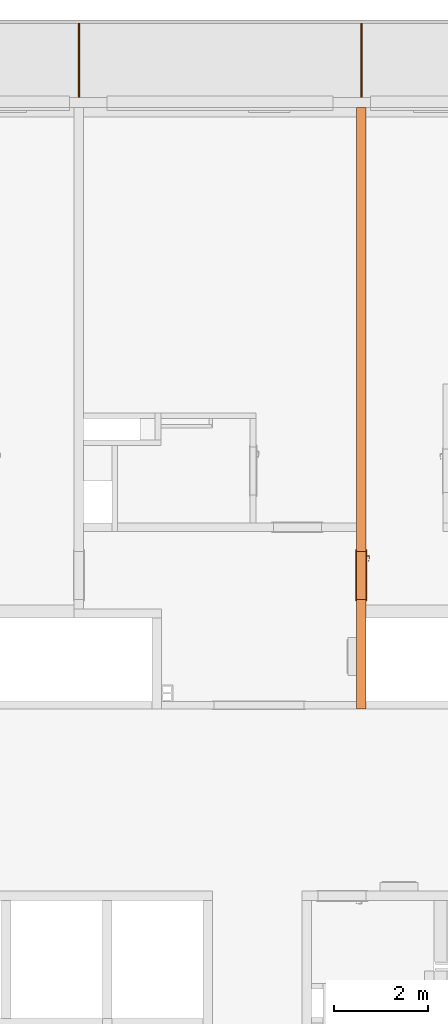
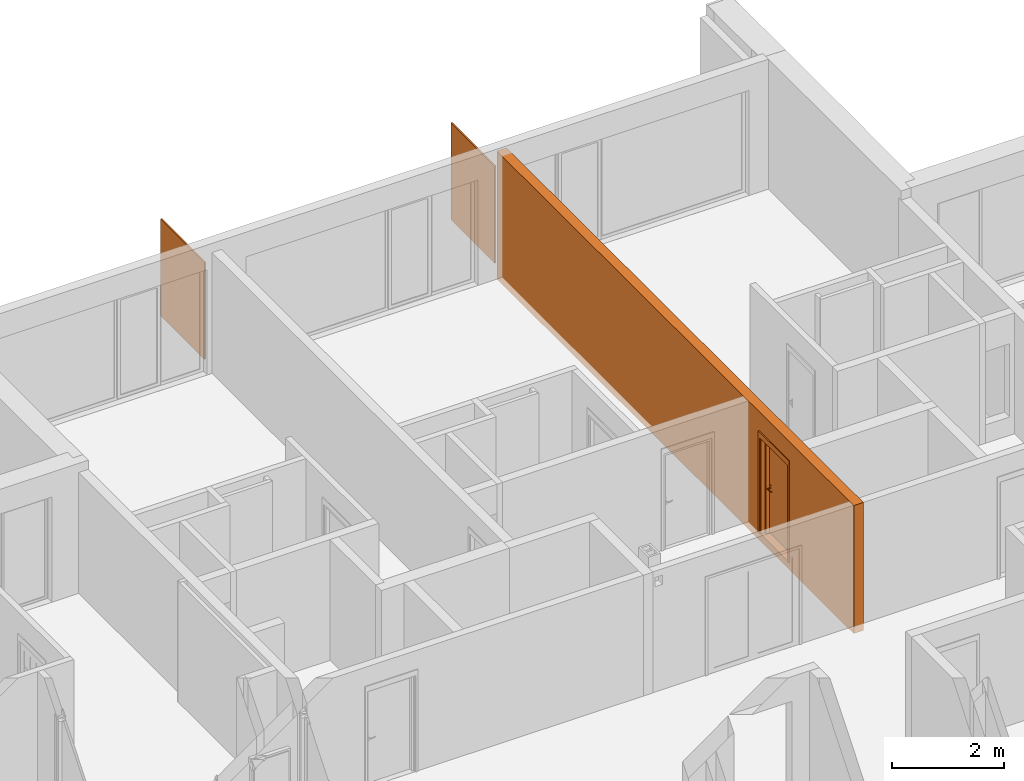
# One storey, part 28 of 66: 4 proxies, 1 opening.
"""IFC2X3 building model written with IfcOpenShell, lengths in millimetres."""

from ifc_helpers import new_model, entity, si_unit, converted_unit, derived_unit, money_unit, direction, frame, origin_with_axes, origin_2d_with_axis, place, context, subcontext, project, spatial, polyline, rectangle, outline, extrude, open_shell, faceted_brep, surface_model, source, transform, mapped, material, type_object, element, fill, save


model = new_model("IFC2X3")

# Units and contexts
model_context = context("Model", 3, precision=0.01, world=origin_with_axes(), true_north=direction((0.34421633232, 0.938890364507)))
body_context = subcontext(model_context, "Body", "Model", "MODEL_VIEW")
ifc_project = project(units=[si_unit("LENGTHUNIT", "METRE", prefix="MILLI"), si_unit("AREAUNIT", "SQUARE_METRE"), si_unit("VOLUMEUNIT", "CUBIC_METRE"), converted_unit("PLANEANGLEUNIT", "DEGREE", entity("IfcPlaneAngleMeasure", 0.0174532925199), si_unit("PLANEANGLEUNIT", "RADIAN"), dimensions=[0, 0, 0, 0, 0, 0, 0]), si_unit("SOLIDANGLEUNIT", "STERADIAN"), money_unit("USD"), converted_unit("TIMEUNIT", "Year", entity("IfcTimeMeasure", 31556926.0), si_unit("TIMEUNIT", "SECOND"), dimensions=[0, 0, 1, 0, 0, 0, 0]), si_unit("MASSUNIT", "GRAM", prefix="KILO"), si_unit("THERMODYNAMICTEMPERATUREUNIT", "DEGREE_CELSIUS"), si_unit("LUMINOUSINTENSITYUNIT", "LUMEN"), si_unit("ENERGYUNIT", "JOULE", prefix="MEGA"), derived_unit("THERMALCONDUCTANCEUNIT", [(si_unit("POWERUNIT", "WATT"), 1), (si_unit("LENGTHUNIT", "METRE"), -1), (si_unit("THERMODYNAMICTEMPERATUREUNIT", "KELVIN"), -1)]), derived_unit("SPECIFICHEATCAPACITYUNIT", [(si_unit("ENERGYUNIT", "JOULE"), 1), (si_unit("MASSUNIT", "GRAM", prefix="KILO"), -1), (si_unit("THERMODYNAMICTEMPERATUREUNIT", "KELVIN"), -1)]), derived_unit("MASSDENSITYUNIT", [(si_unit("MASSUNIT", "GRAM", prefix="KILO"), 1), (si_unit("VOLUMEUNIT", "CUBIC_METRE"), -1)])], contexts=[model_context])

# Site, building, storey
site_placement = place(None, origin_with_axes())
site = spatial("IfcSite", under=ifc_project, at=site_placement, Name="USTRONIE MORSKIE", CompositionType="ELEMENT")
building_placement = place(site_placement, origin_with_axes())
building = spatial("IfcBuilding", under=site, at=building_placement, Name="Budynek", CompositionType="ELEMENT")
storey_placement = place(building_placement, frame((0.0, 0.0, 10000.0), z_axis=(0.0, 0.0, 1.0), x_axis=(1.0, 0.0, 0.0)))
storey = spatial("IfcBuildingStorey", under=building, at=storey_placement, Name="PIĘTRO 3", CompositionType="ELEMENT", Elevation=10000.0)

# Proxies, opening
ifc_material_1 = material(Name="Beton konstrukcyjny B25")
building_element_proxy_type_1 = type_object("IfcBuildingElementProxyType", Name="Beton konstrukcyjny B25 200", PredefinedType="NOTDEFINED")
proxy_1_placement = place(storey_placement, frame((390817.920919, 749451.199036, -160.0), z_axis=(0.0, 0.0, 1.0), x_axis=(0.0, -1.0, 0.0)))
proxy_1 = element("IfcBuildingElementProxy", 1, at=proxy_1_placement, inside=storey, type_object=building_element_proxy_type_1, material=ifc_material_1, Name="SW-01", context=body_context, shape_type="Brep", body=[
    faceted_brep([(-100.0, -100.0, 2800.0), (12680.0, -100.0, 2800.0), (12680.0, 100.0, 2800.0), (-100.0, 100.0, 2800.0), (-100.0, -100.0, 0.0), (12680.0, -100.0, 0.0), (12680.0, 100.0, 0.0), (-100.0, 100.0, 0.0)], [[[0, 1, 2, 3]], [[4, 5, 1, 0]], [[6, 2, 1, 5]], [[3, 2, 6, 7]], [[7, 4, 0, 3]], [[7, 6, 5, 4]]]),
])
opening_placement = place(proxy_1_placement, frame((9840.0, 0.0, 160.0), z_axis=(0.0, 0.0, 1.0), x_axis=(1.0, 0.0, 0.0)))
opening = element("IfcOpeningElement", 2, at=opening_placement, cuts=proxy_1, Name="Dw.1", context=body_context, shape_type="SweptSolid", body=[
    extrude(rectangle(XDim=1020.0, YDim=2120.0, at=origin_2d_with_axis()), frame((0.0, -200.0, 1060.0), z_axis=(0.0, 1.0, 0.0), x_axis=(1.0, 0.0, 0.0)), (0.0, 0.0, 1.0), 600.0),
    extrude(rectangle(XDim=1094.0, YDim=2227.0, at=origin_2d_with_axis()), frame((0.0, -100.0, 1113.5), z_axis=(0.0, 1.0, 0.0), x_axis=(1.0, 0.0, 0.0)), (0.0, 0.0, -1.0), 200.0),
    extrude(rectangle(XDim=1094.0, YDim=2227.0, at=origin_2d_with_axis()), frame((0.0, 100.0, 1113.5), z_axis=(0.0, -1.0, 0.0), x_axis=(1.0, 0.0, 0.0)), (0.0, 0.0, -1.0), 200.0),
])
building_element_proxy_type_2 = type_object("IfcBuildingElementProxyType", Name="Drzwi 23", PredefinedType="NOTDEFINED")
shared_shape = source(origin_with_axes(), body_context, "Body", "SurfaceModel", [
    faceted_brep([(-510.0, -115.0, 0.0), (-485.0, -115.0, 0.0), (-485.0, -200.0, 0.0), (-510.0, -200.0, 0.0), (-510.0, -115.0, 2120.0), (-485.0, -115.0, 2095.0), (-485.0, -200.0, 2095.0), (-510.0, -200.0, 2120.0)], [[[0, 1, 2, 3]], [[0, 4, 5, 1]], [[1, 5, 6, 2]], [[3, 2, 6, 7]], [[4, 0, 3, 7]], [[5, 4, 7, 6]]]),
    faceted_brep([(510.0, -115.0, 2120.0), (485.0, -115.0, 2095.0), (485.0, -200.0, 2095.0), (510.0, -200.0, 2120.0), (510.0, -115.0, 0.0), (485.0, -115.0, 0.0), (485.0, -200.0, 0.0), (510.0, -200.0, 0.0)], [[[0, 1, 2, 3]], [[0, 4, 5, 1]], [[1, 5, 6, 2]], [[3, 2, 6, 7]], [[4, 0, 3, 7]], [[5, 4, 7, 6]]]),
    faceted_brep([(-485.0, -115.0, 2095.0), (485.0, -115.0, 2095.0), (485.0, -200.0, 2095.0), (-485.0, -200.0, 2095.0), (-510.0, -115.0, 2120.0), (510.0, -115.0, 2120.0), (510.0, -200.0, 2120.0), (-510.0, -200.0, 2120.0)], [[[0, 1, 2, 3]], [[0, 4, 5, 1]], [[1, 5, 6, 2]], [[3, 2, 6, 7]], [[4, 0, 3, 7]], [[5, 4, 7, 6]]]),
    faceted_brep([(-547.0, -219.0, 0.0), (-547.0, -200.0, 0.0), (-497.0, -200.0, 0.0), (-497.0, -219.0, 0.0), (-547.0, -219.0, 2227.0), (-547.0, -200.0, 2227.0), (-497.0, -200.0, 2107.0), (-497.0, -219.0, 2107.0)], [[[0, 1, 2, 3]], [[4, 5, 1, 0]], [[1, 5, 6, 2]], [[3, 2, 6, 7]], [[0, 3, 7, 4]], [[7, 6, 5, 4]]]),
    faceted_brep([(547.0, -219.0, 2227.0), (547.0, -200.0, 2227.0), (497.0, -200.0, 2107.0), (497.0, -219.0, 2107.0), (547.0, -219.0, 0.0), (547.0, -200.0, 0.0), (497.0, -200.0, 0.0), (497.0, -219.0, 0.0)], [[[0, 1, 2, 3]], [[4, 5, 1, 0]], [[1, 5, 6, 2]], [[3, 2, 6, 7]], [[0, 3, 7, 4]], [[7, 6, 5, 4]]]),
    faceted_brep([(-547.0, -219.0, 2227.0), (-547.0, -200.0, 2227.0), (-497.0, -200.0, 2107.0), (-497.0, -219.0, 2107.0), (547.0, -219.0, 2227.0), (547.0, -200.0, 2227.0), (497.0, -200.0, 2107.0), (497.0, -219.0, 2107.0)], [[[0, 1, 2, 3]], [[4, 5, 1, 0]], [[1, 5, 6, 2]], [[3, 2, 6, 7]], [[0, 3, 7, 4]], [[7, 6, 5, 4]]]),
    faceted_brep([(-547.0, 19.0, 0.0), (-497.0, 19.0, 0.0), (-497.0, 0.0, 0.0), (-547.0, 0.0, 0.0), (-547.0, 19.0, 2227.0), (-497.0, 19.0, 2107.0), (-497.0, 0.0, 2107.0), (-547.0, 0.0, 2227.0)], [[[0, 1, 2, 3]], [[0, 4, 5, 1]], [[1, 5, 6, 2]], [[3, 2, 6, 7]], [[4, 0, 3, 7]], [[5, 4, 7, 6]]]),
    faceted_brep([(547.0, 19.0, 2227.0), (497.0, 19.0, 2107.0), (497.0, 0.0, 2107.0), (547.0, 0.0, 2227.0), (547.0, 19.0, 0.0), (497.0, 19.0, 0.0), (497.0, 0.0, 0.0), (547.0, 0.0, 0.0)], [[[0, 1, 2, 3]], [[0, 4, 5, 1]], [[1, 5, 6, 2]], [[3, 2, 6, 7]], [[4, 0, 3, 7]], [[5, 4, 7, 6]]]),
    faceted_brep([(-547.0, 19.0, 2227.0), (-497.0, 19.0, 2107.0), (-497.0, 0.0, 2107.0), (-547.0, 0.0, 2227.0), (547.0, 19.0, 2227.0), (497.0, 19.0, 2107.0), (497.0, 0.0, 2107.0), (547.0, 0.0, 2227.0)], [[[0, 1, 2, 3]], [[0, 4, 5, 1]], [[1, 5, 6, 2]], [[3, 2, 6, 7]], [[4, 0, 3, 7]], [[5, 4, 7, 6]]]),
    faceted_brep([(-450.0, -40.0, 0.0), (-450.0, -40.0, 2050.0), (-450.0, -115.0, 2050.0), (-450.0, -115.0, 0.0), (-462.0, -40.0, 2050.0), (-462.0, -40.0, 0.0), (-462.0, 0.0, 2050.0), (-510.0, 0.0, 2050.0), (-510.0, -115.0, 2050.0), (-510.0, -115.0, 0.0), (-510.0, 0.0, 0.0), (-462.0, 0.0, 0.0)], [[[0, 1, 2, 3]], [[4, 1, 0, 5]], [[4, 6, 7, 8, 2, 1]], [[3, 2, 8, 9]], [[5, 0, 3, 9, 10, 11]], [[6, 4, 5, 11]], [[6, 11, 10, 7]], [[10, 9, 8, 7]]]),
    faceted_brep([(462.0, -40.0, 2050.0), (450.0, -40.0, 2050.0), (450.0, -115.0, 2050.0), (510.0, -115.0, 2050.0), (510.0, 0.0, 2050.0), (462.0, 0.0, 2050.0), (462.0, -40.0, 0.0), (450.0, -40.0, 0.0), (450.0, -115.0, 0.0), (510.0, -115.0, 0.0), (510.0, 0.0, 0.0), (462.0, 0.0, 0.0)], [[[0, 1, 2, 3, 4, 5]], [[1, 0, 6, 7]], [[1, 7, 8, 2]], [[3, 2, 8, 9]], [[4, 3, 9, 10]], [[11, 5, 4, 10]], [[0, 5, 11, 6]], [[6, 11, 10, 9, 8, 7]]]),
    faceted_brep([(-462.0, 0.0, 2062.0), (-462.0, 0.0, 2050.0), (-510.0, 0.0, 2050.0), (-510.0, 0.0, 2120.0), (510.0, 0.0, 2120.0), (510.0, 0.0, 2050.0), (462.0, 0.0, 2050.0), (462.0, 0.0, 2062.0), (-462.0, -40.0, 2062.0), (-462.0, -40.0, 2050.0), (-450.0, -40.0, 2050.0), (-450.0, -115.0, 2050.0), (-510.0, -115.0, 2050.0), (-510.0, -115.0, 2120.0), (510.0, -115.0, 2120.0), (510.0, -115.0, 2050.0), (462.0, -40.0, 2050.0), (450.0, -115.0, 2050.0), (450.0, -40.0, 2050.0), (462.0, -40.0, 2062.0)], [[[0, 1, 2, 3, 4, 5, 6, 7]], [[1, 0, 8, 9]], [[9, 10, 11, 12, 2, 1]], [[2, 12, 13, 3]], [[3, 13, 14, 4]], [[4, 14, 15, 5]], [[16, 6, 5, 15, 17, 18]], [[7, 6, 16, 19]], [[0, 7, 19, 8]], [[16, 18, 10, 9, 8, 19]], [[10, 18, 17, 11]], [[17, 15, 14, 13, 12, 11]]]),
    faceted_brep([(-440.5, -40.0, 1060.0), (-440.5, -43.0, 1060.0), (-383.5, -43.0, 1060.0), (-383.5, -40.0, 1060.0), (-440.5, -40.0, 870.0), (-440.5, -43.0, 870.0), (-383.5, -43.0, 870.0), (-383.5, -40.0, 870.0)], [[[0, 1, 2, 3]], [[4, 5, 1, 0]], [[1, 5, 6, 2]], [[3, 2, 6, 7]], [[0, 3, 7, 4]], [[7, 6, 5, 4]]]),
    faceted_brep([(-412.0, -104.0, 990.0), (-412.0, -111.0, 990.0), (-417.0, -111.0, 991.339745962), (-417.0, -104.0, 991.339745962), (-387.0, -104.0, 990.0), (-387.0, -111.0, 990.0), (-387.0, -111.0, 1010.0), (-412.0, -111.0, 1010.0), (-417.0, -111.0, 1008.66025404), (-420.660254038, -111.0, 1005.0), (-422.0, -111.0, 1000.0), (-420.660254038, -111.0, 995.0), (-420.660254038, -104.0, 995.0), (-422.0, -104.0, 1000.0), (-420.660254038, -104.0, 1005.0), (-417.0, -104.0, 1008.66025404), (-412.0, -104.0, 1010.0), (-387.0, -104.0, 1010.0)], [[[0, 1, 2, 3]], [[4, 5, 1, 0]], [[1, 5, 6, 7, 8, 9, 10, 11, 2]], [[3, 2, 11, 12]], [[0, 3, 12, 13, 14, 15, 16, 17, 4]], [[17, 6, 5, 4]], [[16, 7, 6, 17]], [[15, 8, 7, 16]], [[14, 9, 8, 15]], [[13, 10, 9, 14]], [[12, 11, 10, 13]]]),
    surface_model("IfcShellBasedSurfaceModel", [(-387.0, -104.0, 1010.0), (-373.596090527, -111.0, 1009.60730092), (-373.901717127, -104.0, 1009.60730092), (-387.0, -111.0, 1010.0), (-346.890283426, -108.663544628, 1008.82190275), (-373.901717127, -104.0, 990.392699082), (-387.0, -104.0, 990.0), (-387.0, -111.0, 990.0), (-373.596090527, -111.0, 990.392699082), (-346.890283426, -108.663544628, 991.178097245), (-347.804837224, -101.716818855, 1008.82190275), (-347.804837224, -101.716818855, 991.178097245), (-320.489735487, -104.008415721, 991.963495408), (-320.489735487, -104.008415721, 1008.03650459), (-322.006256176, -97.1678329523, 1008.03650459), (-322.006256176, -97.1678329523, 991.963495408), (-294.59537082, -97.0700416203, 992.748893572), (-294.59537082, -97.0700416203, 1007.25110643), (-296.702316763, -90.3876628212, 1007.25110643), (-296.702316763, -90.3876628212, 992.748893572), (-286.538795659, -94.1376880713, 993.0), (-286.538795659, -94.1376880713, 1007.0), (-288.829442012, -87.5221707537, 1007.0), (-288.829442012, -87.5221707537, 993.0)], [open_shell([[[0, 1, 2]], [[0, 3, 1]], [[2, 1, 4]], [[0, 2, 5, 6]], [[3, 7, 8, 1]], [[1, 8, 9, 4]], [[2, 4, 10]], [[2, 10, 11, 5]], [[5, 7, 6]], [[5, 8, 7]], [[11, 9, 8]], [[4, 9, 12, 13]], [[10, 4, 13]], [[10, 14, 15, 11]], [[11, 8, 5]], [[15, 9, 11]], [[15, 12, 9]], [[13, 12, 16, 17]], [[10, 13, 14]], [[14, 18, 19, 15]], [[19, 12, 15]], [[19, 16, 12]], [[17, 16, 20, 21]], [[14, 13, 17]], [[14, 17, 18]], [[18, 22, 23, 19]], [[23, 16, 19]], [[23, 20, 16]], [[22, 21, 20, 23]], [[18, 17, 21]], [[18, 21, 22]]])]),
    faceted_brep([(-401.607695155, -53.0, 994.0), (-400.741669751, -43.0, 993.5), (-399.0, -43.0, 1000.0), (-400.0, -53.0, 1000.0), (-406.0, -53.0, 989.607695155), (-405.5, -43.0, 988.741669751), (-412.0, -43.0, 987.0), (-418.5, -43.0, 988.741669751), (-423.258330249, -43.0, 993.5), (-425.0, -43.0, 1000.0), (-423.258330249, -43.0, 1006.5), (-418.5, -43.0, 1011.25833025), (-412.0, -43.0, 1013.0), (-405.5, -43.0, 1011.25833025), (-400.741669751, -43.0, 1006.5), (-401.607695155, -53.0, 1006.0), (-406.0, -53.0, 1010.39230485), (-412.0, -53.0, 1012.0), (-418.0, -53.0, 1010.39230485), (-422.392304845, -53.0, 1006.0), (-424.0, -53.0, 1000.0), (-422.392304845, -53.0, 994.0), (-418.0, -53.0, 989.607695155), (-412.0, -53.0, 988.0)], [[[0, 1, 2, 3]], [[4, 5, 1, 0]], [[2, 1, 5, 6, 7, 8, 9, 10, 11, 12, 13, 14]], [[3, 2, 14, 15]], [[3, 15, 16, 17, 18, 19, 20, 21, 22, 23, 4, 0]], [[23, 6, 5, 4]], [[22, 7, 6, 23]], [[21, 8, 7, 22]], [[20, 9, 8, 21]], [[19, 10, 9, 20]], [[18, 11, 10, 19]], [[17, 12, 11, 18]], [[16, 13, 12, 17]], [[15, 14, 13, 16]]]),
    faceted_brep([(-394.679491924, -47.0, 895.0), (-392.947441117, -43.0, 894.0), (-390.0, -43.0, 905.0), (-392.0, -47.0, 905.0), (-402.0, -47.0, 887.679491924), (-401.0, -43.0, 885.947441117), (-412.0, -43.0, 883.0), (-423.0, -43.0, 885.947441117), (-431.052558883, -43.0, 894.0), (-434.0, -43.0, 905.0), (-431.052558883, -43.0, 916.0), (-423.0, -43.0, 924.052558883), (-412.0, -43.0, 927.0), (-401.0, -43.0, 924.052558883), (-392.947441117, -43.0, 916.0), (-394.679491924, -47.0, 915.0), (-402.0, -47.0, 922.320508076), (-412.0, -47.0, 925.0), (-422.0, -47.0, 922.320508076), (-429.320508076, -47.0, 915.0), (-432.0, -47.0, 905.0), (-429.320508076, -47.0, 895.0), (-422.0, -47.0, 887.679491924), (-412.0, -47.0, 885.0)], [[[0, 1, 2, 3]], [[4, 5, 1, 0]], [[2, 1, 5, 6, 7, 8, 9, 10, 11, 12, 13, 14]], [[3, 2, 14, 15]], [[3, 15, 16, 17, 18, 19, 20, 21, 22, 23, 4, 0]], [[23, 6, 5, 4]], [[22, 7, 6, 23]], [[21, 8, 7, 22]], [[20, 9, 8, 21]], [[19, 10, 9, 20]], [[18, 11, 10, 19]], [[17, 12, 11, 18]], [[16, 13, 12, 17]], [[15, 14, 13, 16]]]),
    faceted_brep([(-407.050252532, -49.0, 909.050252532), (-406.343145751, -47.0, 908.343145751), (-404.0, -47.0, 914.0), (-405.0, -49.0, 914.0), (-412.0, -49.0, 907.0), (-412.0, -47.0, 906.0), (-417.656854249, -47.0, 908.343145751), (-420.0, -47.0, 914.0), (-417.656854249, -47.0, 919.656854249), (-412.0, -47.0, 922.0), (-406.343145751, -47.0, 919.656854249), (-407.050252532, -49.0, 918.949747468), (-412.0, -49.0, 921.0), (-416.949747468, -49.0, 918.949747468), (-419.0, -49.0, 914.0), (-416.949747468, -49.0, 909.050252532)], [[[0, 1, 2, 3]], [[4, 5, 1, 0]], [[2, 1, 5, 6, 7, 8, 9, 10]], [[3, 2, 10, 11]], [[3, 11, 12, 13, 14, 15, 4, 0]], [[15, 6, 5, 4]], [[14, 7, 6, 15]], [[13, 8, 7, 14]], [[12, 9, 8, 13]], [[11, 10, 9, 12]]]),
    faceted_brep([(-412.0, -53.0, 1010.0), (-412.0, -104.0, 1010.0), (-407.0, -104.0, 1008.66025404), (-407.0, -53.0, 1008.66025404), (-417.0, -53.0, 1008.66025404), (-417.0, -104.0, 1008.66025404), (-420.660254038, -104.0, 1005.0), (-422.0, -104.0, 1000.0), (-420.660254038, -104.0, 995.0), (-417.0, -104.0, 991.339745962), (-412.0, -104.0, 990.0), (-407.0, -104.0, 991.339745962), (-403.339745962, -104.0, 995.0), (-402.0, -104.0, 1000.0), (-403.339745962, -104.0, 1005.0), (-403.339745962, -53.0, 1005.0), (-402.0, -53.0, 1000.0), (-403.339745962, -53.0, 995.0), (-407.0, -53.0, 991.339745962), (-412.0, -53.0, 990.0), (-417.0, -53.0, 991.339745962), (-420.660254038, -53.0, 995.0), (-422.0, -53.0, 1000.0), (-420.660254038, -53.0, 1005.0)], [[[0, 1, 2, 3]], [[4, 5, 1, 0]], [[1, 5, 6, 7, 8, 9, 10, 11, 12, 13, 14, 2]], [[3, 2, 14, 15]], [[0, 3, 15, 16, 17, 18, 19, 20, 21, 22, 23, 4]], [[23, 6, 5, 4]], [[22, 7, 6, 23]], [[21, 8, 7, 22]], [[20, 9, 8, 21]], [[19, 10, 9, 20]], [[18, 11, 10, 19]], [[17, 12, 11, 18]], [[16, 13, 12, 17]], [[15, 14, 13, 16]]]),
    faceted_brep([(-440.5, 0.0, 1060.0), (-383.5, 0.0, 1060.0), (-383.5, 3.0, 1060.0), (-440.5, 3.0, 1060.0), (-440.5, 0.0, 870.0), (-383.5, 0.0, 870.0), (-383.5, 3.0, 870.0), (-440.5, 3.0, 870.0)], [[[0, 1, 2, 3]], [[0, 4, 5, 1]], [[1, 5, 6, 2]], [[3, 2, 6, 7]], [[4, 0, 3, 7]], [[5, 4, 7, 6]]]),
    faceted_brep([(-412.0, 64.0, 990.0), (-417.0, 64.0, 991.339745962), (-417.0, 71.0, 991.339745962), (-412.0, 71.0, 990.0), (-387.0, 64.0, 990.0), (-387.0, 64.0, 1010.0), (-412.0, 64.0, 1010.0), (-417.0, 64.0, 1008.66025404), (-420.660254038, 64.0, 1005.0), (-422.0, 64.0, 1000.0), (-420.660254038, 64.0, 995.0), (-420.660254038, 71.0, 995.0), (-422.0, 71.0, 1000.0), (-420.660254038, 71.0, 1005.0), (-417.0, 71.0, 1008.66025404), (-412.0, 71.0, 1010.0), (-387.0, 71.0, 1010.0), (-387.0, 71.0, 990.0)], [[[0, 1, 2, 3]], [[0, 4, 5, 6, 7, 8, 9, 10, 1]], [[1, 10, 11, 2]], [[3, 2, 11, 12, 13, 14, 15, 16, 17]], [[4, 0, 3, 17]], [[5, 4, 17, 16]], [[6, 5, 16, 15]], [[7, 6, 15, 14]], [[8, 7, 14, 13]], [[9, 8, 13, 12]], [[10, 9, 12, 11]]]),
    surface_model("IfcShellBasedSurfaceModel", [(-387.0, 64.0, 1010.0), (-373.901717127, 64.0, 1009.60730092), (-373.596090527, 71.0, 1009.60730092), (-387.0, 64.0, 990.0), (-373.901717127, 64.0, 990.392699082), (-346.890283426, 68.6635446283, 1008.82190275), (-387.0, 71.0, 1010.0), (-387.0, 71.0, 990.0), (-347.804837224, 61.716818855, 991.178097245), (-347.804837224, 61.716818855, 1008.82190275), (-346.890283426, 68.6635446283, 991.178097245), (-373.596090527, 71.0, 990.392699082), (-322.006256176, 57.1678329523, 991.963495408), (-322.006256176, 57.1678329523, 1008.03650459), (-320.489735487, 64.0084157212, 1008.03650459), (-320.489735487, 64.0084157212, 991.963495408), (-296.702316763, 50.3876628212, 992.748893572), (-296.702316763, 50.3876628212, 1007.25110643), (-294.59537082, 57.0700416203, 1007.25110643), (-294.59537082, 57.0700416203, 992.748893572), (-288.829442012, 47.5221707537, 993.0), (-288.829442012, 47.5221707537, 1007.0), (-286.538795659, 54.1376880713, 1007.0), (-286.538795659, 54.1376880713, 993.0)], [open_shell([[[0, 1, 2]], [[0, 3, 4, 1]], [[1, 5, 2]], [[0, 2, 6]], [[4, 3, 7]], [[1, 4, 8, 9]], [[1, 9, 5]], [[2, 5, 10, 11]], [[6, 2, 11, 7]], [[4, 7, 11]], [[8, 4, 11]], [[9, 8, 12, 13]], [[9, 14, 5]], [[5, 14, 15, 10]], [[8, 11, 10]], [[12, 8, 10]], [[13, 12, 16, 17]], [[9, 13, 14]], [[14, 18, 19, 15]], [[12, 10, 15]], [[16, 12, 15]], [[17, 16, 20, 21]], [[13, 17, 18]], [[13, 18, 14]], [[18, 22, 23, 19]], [[16, 15, 19]], [[20, 16, 19]], [[21, 20, 23, 22]], [[17, 21, 22]], [[17, 22, 18]], [[20, 19, 23]]])]),
    faceted_brep([(-401.607695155, 13.0, 994.0), (-400.0, 13.0, 1000.0), (-399.0, 3.0, 1000.0), (-400.741669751, 3.0, 993.5), (-406.0, 13.0, 989.607695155), (-412.0, 13.0, 988.0), (-418.0, 13.0, 989.607695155), (-422.392304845, 13.0, 994.0), (-424.0, 13.0, 1000.0), (-422.392304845, 13.0, 1006.0), (-418.0, 13.0, 1010.39230485), (-412.0, 13.0, 1012.0), (-406.0, 13.0, 1010.39230485), (-401.607695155, 13.0, 1006.0), (-400.741669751, 3.0, 1006.5), (-405.5, 3.0, 1011.25833025), (-412.0, 3.0, 1013.0), (-418.5, 3.0, 1011.25833025), (-423.258330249, 3.0, 1006.5), (-425.0, 3.0, 1000.0), (-423.258330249, 3.0, 993.5), (-418.5, 3.0, 988.741669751), (-412.0, 3.0, 987.0), (-405.5, 3.0, 988.741669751)], [[[0, 1, 2, 3]], [[1, 0, 4, 5, 6, 7, 8, 9, 10, 11, 12, 13]], [[1, 13, 14, 2]], [[2, 14, 15, 16, 17, 18, 19, 20, 21, 22, 23, 3]], [[4, 0, 3, 23]], [[5, 4, 23, 22]], [[6, 5, 22, 21]], [[7, 6, 21, 20]], [[8, 7, 20, 19]], [[9, 8, 19, 18]], [[10, 9, 18, 17]], [[11, 10, 17, 16]], [[12, 11, 16, 15]], [[13, 12, 15, 14]]]),
    faceted_brep([(-394.679491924, 7.0, 895.0), (-392.0, 7.0, 905.0), (-390.0, 3.0, 905.0), (-392.947441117, 3.0, 894.0), (-402.0, 7.0, 887.679491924), (-412.0, 7.0, 885.0), (-422.0, 7.0, 887.679491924), (-429.320508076, 7.0, 895.0), (-432.0, 7.0, 905.0), (-429.320508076, 7.0, 915.0), (-422.0, 7.0, 922.320508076), (-412.0, 7.0, 925.0), (-402.0, 7.0, 922.320508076), (-394.679491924, 7.0, 915.0), (-392.947441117, 3.0, 916.0), (-401.0, 3.0, 924.052558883), (-412.0, 3.0, 927.0), (-423.0, 3.0, 924.052558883), (-431.052558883, 3.0, 916.0), (-434.0, 3.0, 905.0), (-431.052558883, 3.0, 894.0), (-423.0, 3.0, 885.947441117), (-412.0, 3.0, 883.0), (-401.0, 3.0, 885.947441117)], [[[0, 1, 2, 3]], [[1, 0, 4, 5, 6, 7, 8, 9, 10, 11, 12, 13]], [[1, 13, 14, 2]], [[2, 14, 15, 16, 17, 18, 19, 20, 21, 22, 23, 3]], [[4, 0, 3, 23]], [[5, 4, 23, 22]], [[6, 5, 22, 21]], [[7, 6, 21, 20]], [[8, 7, 20, 19]], [[9, 8, 19, 18]], [[10, 9, 18, 17]], [[11, 10, 17, 16]], [[12, 11, 16, 15]], [[13, 12, 15, 14]]]),
    faceted_brep([(-407.050252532, 9.0, 909.050252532), (-405.0, 9.0, 914.0), (-404.0, 7.0, 914.0), (-406.343145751, 7.0, 908.343145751), (-412.0, 9.0, 907.0), (-416.949747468, 9.0, 909.050252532), (-419.0, 9.0, 914.0), (-416.949747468, 9.0, 918.949747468), (-412.0, 9.0, 921.0), (-407.050252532, 9.0, 918.949747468), (-406.343145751, 7.0, 919.656854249), (-412.0, 7.0, 922.0), (-417.656854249, 7.0, 919.656854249), (-420.0, 7.0, 914.0), (-417.656854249, 7.0, 908.343145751), (-412.0, 7.0, 906.0)], [[[0, 1, 2, 3]], [[1, 0, 4, 5, 6, 7, 8, 9]], [[1, 9, 10, 2]], [[2, 10, 11, 12, 13, 14, 15, 3]], [[4, 0, 3, 15]], [[5, 4, 15, 14]], [[6, 5, 14, 13]], [[7, 6, 13, 12]], [[8, 7, 12, 11]], [[9, 8, 11, 10]]]),
    faceted_brep([(-412.0, 13.0, 1010.0), (-407.0, 13.0, 1008.66025404), (-407.0, 64.0, 1008.66025404), (-412.0, 64.0, 1010.0), (-417.0, 13.0, 1008.66025404), (-420.660254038, 13.0, 1005.0), (-422.0, 13.0, 1000.0), (-420.660254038, 13.0, 995.0), (-417.0, 13.0, 991.339745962), (-412.0, 13.0, 990.0), (-407.0, 13.0, 991.339745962), (-403.339745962, 13.0, 995.0), (-402.0, 13.0, 1000.0), (-403.339745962, 13.0, 1005.0), (-403.339745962, 64.0, 1005.0), (-402.0, 64.0, 1000.0), (-403.339745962, 64.0, 995.0), (-407.0, 64.0, 991.339745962), (-412.0, 64.0, 990.0), (-417.0, 64.0, 991.339745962), (-420.660254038, 64.0, 995.0), (-422.0, 64.0, 1000.0), (-420.660254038, 64.0, 1005.0), (-417.0, 64.0, 1008.66025404)], [[[0, 1, 2, 3]], [[0, 4, 5, 6, 7, 8, 9, 10, 11, 12, 13, 1]], [[1, 13, 14, 2]], [[3, 2, 14, 15, 16, 17, 18, 19, 20, 21, 22, 23]], [[4, 0, 3, 23]], [[5, 4, 23, 22]], [[6, 5, 22, 21]], [[7, 6, 21, 20]], [[8, 7, 20, 19]], [[9, 8, 19, 18]], [[10, 9, 18, 17]], [[11, 10, 17, 16]], [[12, 11, 16, 15]], [[13, 12, 15, 14]]]),
    faceted_brep([(462.0, 0.0, 0.0), (462.0, -40.0, 0.0), (-462.0, -40.0, 0.0), (-462.0, 0.0, 0.0), (462.0, 0.0, 2062.0), (462.0, -40.0, 2062.0), (-462.0, -40.0, 2062.0), (-462.0, 0.0, 2062.0)], [[[0, 1, 2, 3]], [[4, 5, 1, 0]], [[1, 5, 6, 2]], [[3, 2, 6, 7]], [[0, 3, 7, 4]], [[7, 6, 5, 4]]]),
])
proxy_2_placement = place(opening_placement, frame((-450.0, 0.0, 0.0), z_axis=(0.0, 0.0, 1.0), x_axis=(1.0, 0.0, 0.0)))
proxy_2 = element("IfcBuildingElementProxy", 3, at=proxy_2_placement, inside=storey, type_object=building_element_proxy_type_2, Name="Dw.1", context=body_context, shape_type="MappedRepresentation", body=[
    mapped(shared_shape, transform((450.0, 100.0, 0.0))),
])
fill(opening, proxy_2)

# Proxies
ifc_material_2 = material(Name="Woda")
building_element_proxy_type_3 = type_object("IfcBuildingElementProxyType", Name="Woda 30", PredefinedType="NOTDEFINED")
for number, where, z_axis, x_axis, name in (
    (4, (390817.920919, 749771.199036, 20.0), (0.0, 0.0, 1.0), (0.0, 1.0, 0.0), "Œciana-007"),
    (5, (384817.920919, 749771.199036, 20.0), (0.0, 0.0, 1.0), (0.0, 1.0, 0.0), "Œciana-007"),
):
    element("IfcBuildingElementProxy", number, at=place(storey_placement, frame(where, z_axis=z_axis, x_axis=x_axis)), inside=storey, type_object=building_element_proxy_type_3, material=ifc_material_2, Name=name, context=body_context, shape_type="SweptSolid", body=[
        extrude(outline(polyline([(0.0, -15.0), (1570.0, -15.0), (1570.0, 15.0), (0.0, 15.0), (0.0, -15.0)])), origin_with_axes(), (0.0, 0.0, 1.0), 2120.0),
    ])

save(model, "model.ifc")
